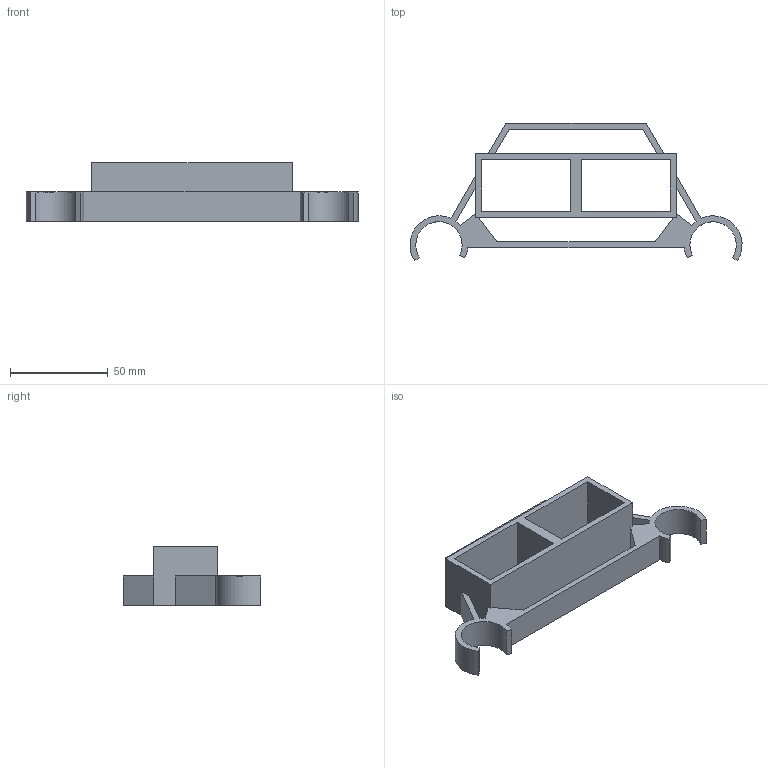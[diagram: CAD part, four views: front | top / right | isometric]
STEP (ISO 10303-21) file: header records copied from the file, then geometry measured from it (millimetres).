
FILE_DESCRIPTION(/* description */ (''),/* implementation_level */ '2;1');
FILE_NAME(/* name */ 'MM_VA_~1',/* time_stamp */ '2015-10-10T14:55:07-04:00',/* author */ (''),/* organization */ (''),/* preprocessor_version */ 'ST-DEVELOPER v15',/* originating_system */ '',/* authorisation */ '');
FILE_SCHEMA (('AUTOMOTIVE_DESIGN'));
Length unit declared in the file: millimetre
Products named in the file (1): Document
Bounding box: 169.57 x 70.23 x 30 mm (x, y, z)
Volume: 48655.4 mm3; surface area: 32146.4 mm2
Topology: 1 solids, 1 shells, 46 faces, 146 edges, 94 vertices
Faces by surface type: plane 24, bspline 22
Entity records: 1503 total; most frequent: CARTESIAN_POINT 658, ORIENTED_EDGE 292, EDGE_CURVE 146, VERTEX_POINT 94, B_SPLINE_CURVE_WITH_KNOTS 70, EDGE_LOOP 50, ADVANCED_FACE 46, FACE_OUTER_BOUND 46
